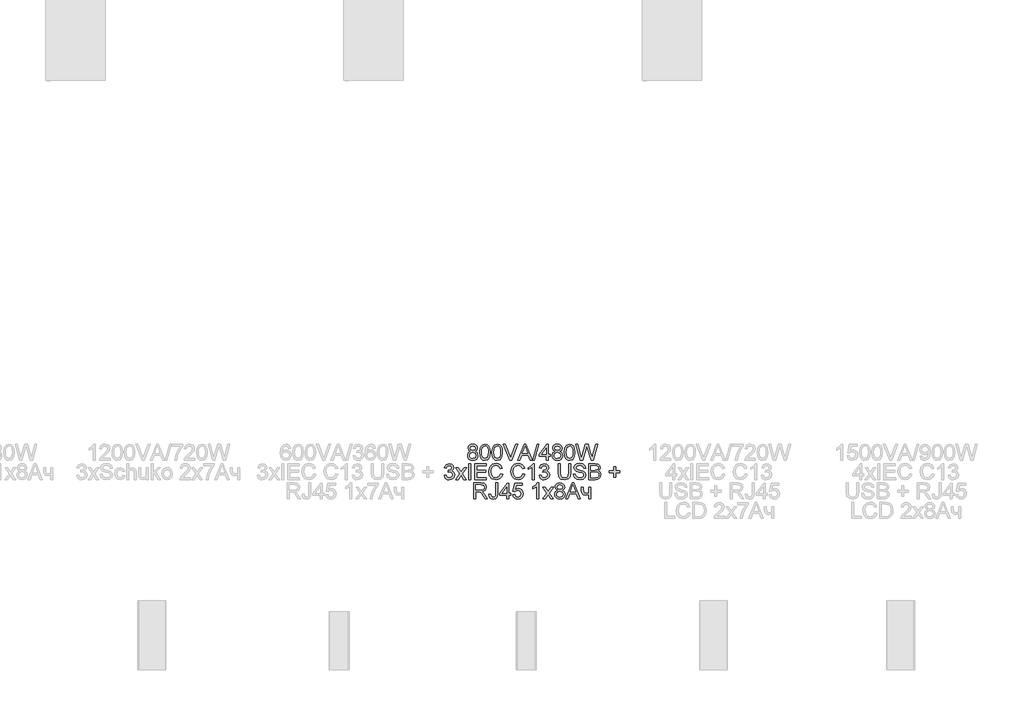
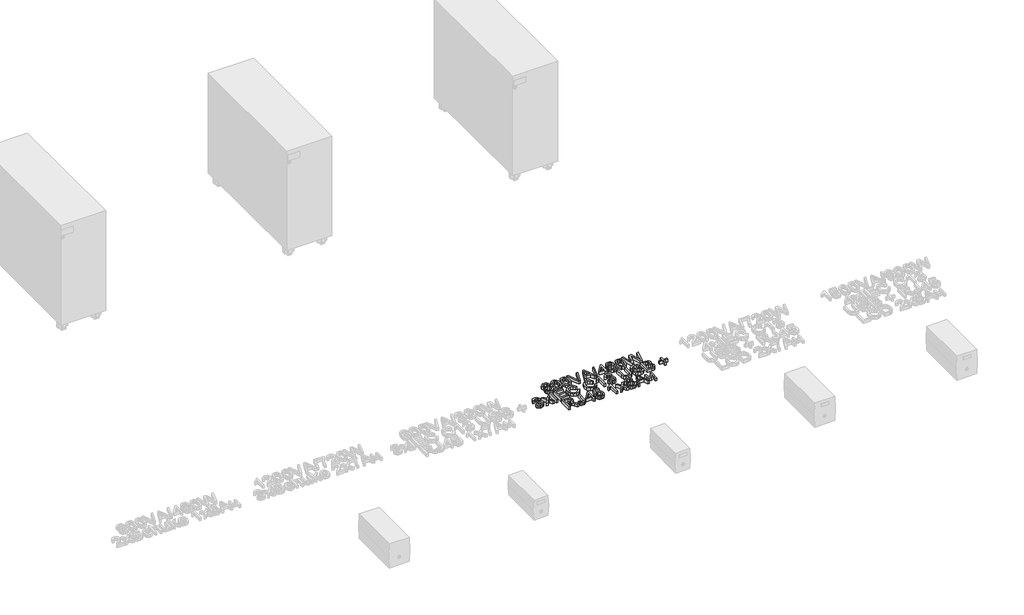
# One storey, part 40 of 74: 1 proxy.
"""IFC4 building model written with IfcOpenShell, lengths in millimetres."""

from ifc_helpers import new_model, si_unit, origin, origin_with_axes, place, context, project, spatial, polyline, outline, extrude, element, save

model = new_model("IFC4")

# Units and contexts
model_context = context("Model", 3, world=origin())
ifc_project = project(units=[si_unit("LENGTHUNIT", "METRE", prefix="MILLI")], contexts=[model_context])

# Site, building, storey
site = spatial("IfcSite", under=ifc_project)
building = spatial("IfcBuilding", under=site)
storey = spatial("IfcBuildingStorey", under=building, Name="Этаж 01", Elevation=0.0)

# Proxy
placement = place(None, origin())
element("IfcBuildingElementProxy", 1, Name="80 мм Arial", ObjectType="80 мм Arial", at=placement, inside=storey, context=model_context, shape_type="SweptSolid", body=[
    extrude(outline(polyline([(4839.4918629, -10982.3697643), (4830.3389588, -10976.1304857), (4827.3664723, -10966.418401), (4828.9851531, -10958.5653467), (4833.8411954, -10952.0759083), (4841.390134, -10947.7201854), (4851.0875034, -10946.2682778), (4860.8437339, -10947.7545211), (4868.4907743, -10952.2132509), (4873.4351083, -10958.8056962), (4875.0832196, -10966.6930862), (4872.1499739, -10976.1599162), (4863.2521347, -10982.3697643), (4873.9354278, -10990.2473441), (4877.5946274, -11003.2458413), (4875.7797429, -11012.8500139), (4870.3350894, -11020.7864548), (4861.9277595, -11026.1133861), (4851.224846, -11027.8890298), (4840.5219325, -11026.1060284), (4832.1146026, -11020.7570242), (4826.6699491, -11012.7445544), (4824.8550646, -11002.971156), (4828.6614169, -10989.6685431), (4839.4918629, -10982.3697643)]), holes=[polyline([(4837.4121033, -10966.7127066), (4840.973201, -10974.6000966), (4851.3425682, -10977.6608748), (4861.5059215, -10974.6197169), (4865.0375886, -10967.1639752), (4861.3881992, -10959.4433584), (4851.224846, -10956.3139089), (4841.0320622, -10959.3746871), (4837.4121033, -10966.7127066)]), polyline([(4834.9006956, -11002.6179893), (4836.5782375, -11010.1816431), (4842.5134003, -11015.8421208), (4851.3033275, -11017.8433988), (4863.271755, -11013.6348288), (4867.5489964, -11002.9319153), (4863.1344124, -10992.0229879), (4850.9697811, -10987.7065058), (4839.1485063, -10991.9641267), (4834.9006956, -11002.6179893)])]), origin_with_axes(), (0.0, 0.0, 1.0), 20.0),
    extrude(outline(polyline([(4886.3845545, -10987.0982742), (4889.3374207, -10963.9756645), (4898.1077274, -10950.643621), (4912.7543359, -10946.2682778), (4924.487319, -10948.8581671), (4932.5905331, -10956.323719), (4937.2994227, -10968.2136651), (4939.1241174, -10987.0982742), (4936.2006818, -11010.122782), (4927.4598056, -11023.4842561), (4912.7543359, -11027.8890298), (4902.3162975, -11025.9760435), (4894.3896667, -11020.2370843), (4888.3858326, -11006.6450709), (4886.3845545, -10987.0982742)]), holes=[polyline([(4896.4301855, -10987.0786538), (4897.6074079, -11002.8804118), (4901.1390751, -11012.0259582), (4912.7543359, -11017.8433988), (4924.3695968, -11012.0063378), (4927.901264, -11002.8558863), (4929.0784863, -10987.0786538), (4927.9405047, -10971.6325151), (4924.5265598, -10962.4158449), (4919.27811, -10957.8393929), (4912.6366137, -10956.3139089), (4901.2960381, -10961.6898911), (4897.6466487, -10971.4804572), (4896.4301855, -10987.0786538)])]), origin_with_axes(), (0.0, 0.0, 1.0), 20.0),
    extrude(outline(polyline([(4947.9140445, -10987.0982742), (4950.8669106, -10963.9756645), (4959.6372174, -10950.643621), (4974.2838259, -10946.2682778), (4986.016809, -10948.8581671), (4994.1200231, -10956.323719), (4998.8289126, -10968.2136651), (5000.6536073, -10987.0982742), (4997.7301717, -11010.122782), (4988.9892955, -11023.4842561), (4974.2838259, -11027.8890298), (4963.8457874, -11025.9760435), (4955.9191567, -11020.2370843), (4949.9153225, -11006.6450709), (4947.9140445, -10987.0982742)]), holes=[polyline([(4957.9596755, -10987.0786538), (4959.1368979, -11002.8804118), (4962.668565, -11012.0259582), (4974.2838259, -11017.8433988), (4985.8990868, -11012.0063378), (4989.4307539, -11002.8558863), (4990.6079763, -10987.0786538), (4989.4699947, -10971.6325151), (4986.0560498, -10962.4158449), (4980.8076, -10957.8393929), (4974.1661037, -10956.3139089), (4962.825528, -10961.6898911), (4959.1761386, -10971.4804572), (4957.9596755, -10987.0786538)])]), origin_with_axes(), (0.0, 0.0, 1.0), 20.0),
    extrude(outline(polyline([(5077.9382569, -11026.633326), (5110.0175668, -10946.2682778), (5118.5720495, -10946.2682778), (5150.6513595, -11026.633326), (5140.0367377, -11026.633326), (5130.8347827, -11001.5192484), (5097.7352133, -11001.5192484), (5088.5528787, -11026.633326), (5077.9382569, -11026.633326)]), holes=[polyline([(5101.4238434, -10991.4736174), (5127.1657729, -10991.4736174), (5119.9258553, -10971.7159017), (5114.2948082, -10956.3139089), (5109.291613, -10969.9893089), (5101.4238434, -10991.4736174)])]), origin_with_axes(), (0.0, 0.0, 1.0), 20.0),
    extrude(outline(polyline([(5036.9512975, -11026.633326), (5004.9700894, -10946.2682778), (5015.7220538, -10946.2682778), (5037.1278809, -11004.1679988), (5041.4639833, -11017.2155469), (5045.7412247, -11004.1679988), (5067.2059128, -10946.2682778), (5077.9578772, -10946.2682778), (5047.3304749, -11026.633326), (5036.9512975, -11026.633326)])), origin_with_axes(), (0.0, 0.0, 1.0), 20.0),
    extrude(outline(polyline([(5152.5937764, -11026.633326), (5175.1964462, -10946.2682778), (5184.2610586, -10946.2682778), (5161.6583888, -11026.633326), (5152.5937764, -11026.633326)])), origin_with_axes(), (0.0, 0.0, 1.0), 20.0),
    extrude(outline(polyline([(5221.6574897, -11026.633326), (5221.6574897, -11007.7977678), (5185.2420772, -11007.7977678), (5185.2420772, -10997.7521368), (5224.1688974, -10947.5239817), (5231.7031207, -10947.5239817), (5231.7031207, -10997.7521368), (5241.7487517, -10997.7521368), (5241.7487517, -11007.7977678), (5231.7031207, -11007.7977678), (5231.7031207, -11026.633326), (5221.6574897, -11026.633326)]), holes=[polyline([(5221.6574897, -10997.7521368), (5221.6574897, -10966.7127066), (5197.6029123, -10997.7521368), (5221.6574897, -10997.7521368)])]), origin_with_axes(), (0.0, 0.0, 1.0), 20.0),
    extrude(outline(polyline([(5265.1754771, -10982.3697643), (5256.0225731, -10976.1304857), (5253.0500866, -10966.418401), (5254.6687674, -10958.5653467), (5259.5248097, -10952.0759083), (5267.0737482, -10947.7201854), (5276.7711176, -10946.2682778), (5286.5273481, -10947.7545211), (5294.1743885, -10952.2132509), (5299.1187226, -10958.8056962), (5300.7668339, -10966.6930862), (5297.8335881, -10976.1599162), (5288.9357489, -10982.3697643), (5299.6190421, -10990.2473441), (5303.2782416, -11003.2458413), (5301.4633571, -11012.8500139), (5296.0187036, -11020.7864548), (5287.6113737, -11026.1133861), (5276.9084602, -11027.8890298), (5266.2055467, -11026.1060284), (5257.7982169, -11020.7570242), (5252.3535633, -11012.7445544), (5250.5386788, -11002.971156), (5254.3450312, -10989.6685431), (5265.1754771, -10982.3697643)]), holes=[polyline([(5263.0957176, -10966.7127066), (5266.6568153, -10974.6000966), (5277.0261825, -10977.6608748), (5287.1895357, -10974.6197169), (5290.7212029, -10967.1639752), (5287.0718135, -10959.4433584), (5276.9084602, -10956.3139089), (5266.7156764, -10959.3746871), (5263.0957176, -10966.7127066)]), polyline([(5260.5843098, -11002.6179893), (5262.2618517, -11010.1816431), (5268.1970146, -11015.8421208), (5276.9869417, -11017.8433988), (5288.9553693, -11013.6348288), (5293.2326106, -11002.9319153), (5288.8180267, -10992.0229879), (5276.6533954, -10987.7065058), (5264.8321206, -10991.9641267), (5260.5843098, -11002.6179893)])]), origin_with_axes(), (0.0, 0.0, 1.0), 20.0),
    extrude(outline(polyline([(5312.0681688, -10987.0982742), (5315.0210349, -10963.9756645), (5323.7913417, -10950.643621), (5338.4379502, -10946.2682778), (5350.1709333, -10948.8581671), (5358.2741474, -10956.323719), (5362.9830369, -10968.2136651), (5364.8077316, -10987.0982742), (5361.884296, -11010.122782), (5353.1434198, -11023.4842561), (5338.4379502, -11027.8890298), (5327.9999117, -11025.9760435), (5320.073281, -11020.2370843), (5314.0694468, -11006.6450709), (5312.0681688, -10987.0982742)]), holes=[polyline([(5322.1137998, -10987.0786538), (5323.2910222, -11002.8804118), (5326.8226893, -11012.0259582), (5338.4379502, -11017.8433988), (5350.0532111, -11012.0063378), (5353.5848782, -11002.8558863), (5354.7621006, -10987.0786538), (5353.624119, -10971.6325151), (5350.210174, -10962.4158449), (5344.9617242, -10957.8393929), (5338.320228, -10956.3139089), (5326.9796523, -10961.6898911), (5323.3302629, -10971.4804572), (5322.1137998, -10987.0786538)])]), origin_with_axes(), (0.0, 0.0, 1.0), 20.0),
    extrude(outline(polyline([(5391.7465038, -11026.633326), (5369.8305471, -10946.2682778), (5380.1901041, -10946.2682778), (5392.9041059, -10999.0863222), (5396.8281805, -11015.3908522), (5401.0269403, -11000.969878), (5416.9586833, -10946.2682778), (5431.8897872, -10946.2682778), (5443.4658073, -10985.9210518), (5452.0791511, -11015.3908522), (5455.8855034, -10999.5572111), (5468.7172274, -10946.2682778), (5479.0767844, -10946.2682778), (5457.1412073, -11026.633326), (5446.4088632, -11026.633326), (5427.1416569, -10964.632947), (5424.4536658, -10955.9803625), (5421.4321283, -10966.3987806), (5403.8718944, -11026.633326), (5391.7465038, -11026.633326)])), origin_with_axes(), (0.0, 0.0, 1.0), 20.0),
    extrude(outline(polyline([(4707.4467521, -11102.8662143), (4717.4923831, -11101.6105105), (4723.0351385, -11112.1858915), (4733.4045057, -11115.4232531), (4745.6083777, -11110.9694284), (4750.1406839, -11099.9427787), (4745.6476185, -11089.5537912), (4734.2285613, -11085.443323), (4727.1848474, -11086.5420639), (4728.3032087, -11076.4964329), (4729.9120792, -11076.6141552), (4741.311516, -11073.7299603), (4746.3735723, -11064.8615517), (4742.7045625, -11057.0035923), (4733.2475427, -11053.8937631), (4723.6728006, -11057.0330228), (4718.748087, -11066.4508019), (4708.7024559, -11065.195098), (4716.9233923, -11049.4399384), (4732.894376, -11043.8481321), (4745.0099563, -11046.6047945), (4753.4859575, -11054.1390178), (4756.4192033, -11064.2729405), (4753.6331103, -11073.5337566), (4745.3925536, -11080.1850631), (4756.3407218, -11087.0521936), (4760.1863149, -11100.1193621), (4758.2635183, -11109.9099283), (4752.4951287, -11118.0916238), (4743.7885881, -11123.624569), (4733.0513389, -11125.4688841), (4723.3392543, -11123.8943492), (4715.4322439, -11119.1707444), (4709.9336344, -11111.945542), (4707.4467521, -11102.8662143)])), origin_with_axes(), (0.0, 0.0, 1.0), 20.0),
    extrude(outline(polyline([(4765.2091304, -11124.2131802), (4786.6738186, -11094.5471761), (4766.4648343, -11065.195098), (4778.5509841, -11065.195098), (4788.3023095, -11079.3217666), (4792.8542361, -11085.9926935), (4796.7979311, -11080.5382298), (4807.9030622, -11065.195098), (4819.989212, -11065.195098), (4798.7599684, -11094.5471761), (4819.2043971, -11124.2131802), (4807.1182473, -11124.2131802), (4794.8162734, -11106.3782611), (4792.5599305, -11103.1212792), (4777.2952802, -11124.2131802), (4765.2091304, -11124.2131802)])), origin_with_axes(), (0.0, 0.0, 1.0), 20.0),
    extrude(outline(polyline([(4830.505732, -11124.2131802), (4830.505732, -11043.8481321), (4840.551363, -11043.8481321), (4840.551363, -11124.2131802), (4830.505732, -11124.2131802)])), origin_with_axes(), (0.0, 0.0, 1.0), 20.0),
    extrude(outline(polyline([(4860.6426251, -11124.2131802), (4860.6426251, -11043.8481321), (4918.4050034, -11043.8481321), (4918.4050034, -11053.8937631), (4870.6882561, -11053.8937631), (4870.6882561, -11077.7521368), (4915.8935956, -11077.7521368), (4915.8935956, -11087.7977678), (4870.6882561, -11087.7977678), (4870.6882561, -11114.1675492), (4919.6607073, -11114.1675492), (4919.6607073, -11124.2131802), (4860.6426251, -11124.2131802)])), origin_with_axes(), (0.0, 0.0, 1.0), 20.0),
    extrude(outline(polyline([(4991.2358282, -11095.645917), (5001.2814593, -11098.2358063), (4996.6461461, -11109.9418114), (4989.3718928, -11118.4938415), (4979.8167711, -11123.7251235), (4968.3388529, -11125.4688841), (4947.4333454, -11120.1910038), (4935.1706122, -11104.9067331), (4930.9620422, -11083.4224246), (4935.7199826, -11061.5849494), (4949.2482299, -11047.4288502), (4968.554677, -11042.5924282), (4979.5690639, -11044.157153), (4988.6753696, -11048.8513273), (4995.5890985, -11056.3855505), (5000.0257554, -11066.4704223), (4989.9801244, -11068.8641078), (4981.7395677, -11056.5130829), (4968.1622695, -11052.6380593), (4952.4463507, -11056.934921), (4943.5681319, -11068.4717003), (4941.0076732, -11083.4028042), (4944.0390208, -11100.7079733), (4953.4764203, -11111.7640535), (4967.3382138, -11115.4232531), (4982.7107761, -11110.4396783), (4991.2358282, -11095.645917)])), origin_with_axes(), (0.0, 0.0, 1.0), 20.0),
    extrude(outline(polyline([(5102.9934733, -11095.645917), (5113.0391043, -11098.2358063), (5108.4037912, -11109.9418114), (5101.1295378, -11118.4938415), (5091.5744162, -11123.7251235), (5080.0964979, -11125.4688841), (5059.1909904, -11120.1910038), (5046.9282572, -11104.9067331), (5042.7196872, -11083.4224246), (5047.4776277, -11061.5849494), (5061.0058749, -11047.4288502), (5080.312322, -11042.5924282), (5091.3267089, -11044.157153), (5100.4330146, -11048.8513273), (5107.3467436, -11056.3855505), (5111.7834004, -11066.4704223), (5101.7377694, -11068.8641078), (5093.4972127, -11056.5130829), (5079.9199145, -11052.6380593), (5064.2039957, -11056.934921), (5055.3257769, -11068.4717003), (5052.7653182, -11083.4028042), (5055.7966659, -11100.7079733), (5065.2340653, -11111.7640535), (5079.0958589, -11115.4232531), (5094.4684212, -11110.4396783), (5102.9934733, -11095.645917)])), origin_with_axes(), (0.0, 0.0, 1.0), 20.0),
    extrude(outline(polyline([(5160.7558516, -11124.2131802), (5150.7102206, -11124.2131802), (5150.7102206, -11061.5849494), (5141.1943397, -11068.3637883), (5130.6189586, -11073.4356547), (5130.6189586, -11063.9393941), (5145.3440486, -11054.5412354), (5154.2811285, -11043.8481321), (5160.7558516, -11043.8481321), (5160.7558516, -11124.2131802)])), origin_with_axes(), (0.0, 0.0, 1.0), 20.0),
    extrude(outline(polyline([(5184.6142253, -11102.8662143), (5194.6598563, -11101.6105105), (5200.2026117, -11112.1858915), (5210.5719789, -11115.4232531), (5222.7758509, -11110.9694284), (5227.3081571, -11099.9427787), (5222.8150917, -11089.5537912), (5211.3960345, -11085.443323), (5204.3523206, -11086.5420639), (5205.4706819, -11076.4964329), (5207.0795525, -11076.6141552), (5218.4789892, -11073.7299603), (5223.5410455, -11064.8615517), (5219.8720357, -11057.0035923), (5210.4150159, -11053.8937631), (5200.8402738, -11057.0330228), (5195.9155602, -11066.4508019), (5185.8699292, -11065.195098), (5194.0908655, -11049.4399384), (5210.0618492, -11043.8481321), (5222.1774295, -11046.6047945), (5230.6534307, -11054.1390178), (5233.5866765, -11064.2729405), (5230.8005835, -11073.5337566), (5222.5600268, -11080.1850631), (5233.508195, -11087.0521936), (5237.3537881, -11100.1193621), (5235.4309916, -11109.9099283), (5229.6626019, -11118.0916238), (5220.9560613, -11123.624569), (5210.2188121, -11125.4688841), (5200.5067275, -11123.8943492), (5192.5997171, -11119.1707444), (5187.1011076, -11111.945542), (5184.6142253, -11102.8662143)])), origin_with_axes(), (0.0, 0.0, 1.0), 20.0),
    extrude(outline(polyline([(5334.0429866, -11043.8481321), (5344.0886176, -11043.8481321), (5344.0886176, -11090.2110737), (5341.3613858, -11109.4292291), (5331.5315789, -11121.0052492), (5312.8922245, -11125.4688841), (5294.5373654, -11121.5840502), (5284.3543918, -11110.3317663), (5281.3034238, -11090.2110737), (5281.3034238, -11043.8481321), (5291.3490548, -11043.8481321), (5291.3490548, -11089.857907), (5293.3307125, -11105.1716082), (5300.138982, -11112.7548824), (5311.9504465, -11115.4232531), (5322.1677558, -11114.103783), (5328.96131, -11110.1453727), (5332.7725675, -11102.4345661), (5334.0429866, -11089.857907), (5334.0429866, -11043.8481321)])), origin_with_axes(), (0.0, 0.0, 1.0), 20.0),
    extrude(outline(polyline([(5357.9013603, -11096.5876949), (5367.9469913, -11096.5876949), (5371.1843529, -11106.6431361), (5379.0913632, -11113.000137), (5391.1382723, -11115.4232531), (5401.6351719, -11113.5887482), (5408.4140108, -11108.5463123), (5410.6409231, -11101.8067142), (5408.9731914, -11095.538005), (5402.1453016, -11090.9762682), (5387.5183134, -11087.1404853), (5371.7729641, -11082.1863411), (5363.2282916, -11074.710979), (5360.412768, -11064.7242091), (5363.8953843, -11053.3542029), (5374.0685477, -11045.3294703), (5388.9604109, -11042.5924282), (5404.8529131, -11045.4570027), (5415.4479145, -11053.8741428), (5419.4308503, -11066.4508019), (5409.3852192, -11066.4508019), (5403.6953111, -11056.1304857), (5389.3528183, -11052.6380593), (5374.9710849, -11056.0912449), (5370.4583991, -11064.4299035), (5373.6565199, -11071.3951359), (5390.0591518, -11077.0065626), (5407.8352098, -11082.0489985), (5417.5571046, -11090.1914533), (5420.6865541, -11101.5516493), (5417.0862157, -11113.5691278), (5406.7266587, -11122.3394346), (5391.5306797, -11125.4688841), (5373.5878486, -11122.0941799), (5362.2374627, -11111.9308267), (5357.9013603, -11096.5876949)])), origin_with_axes(), (0.0, 0.0, 1.0), 20.0),
    extrude(outline(polyline([(5435.7550007, -11124.2131802), (5435.7550007, -11043.8481321), (5466.4216438, -11043.8481321), (5481.4410394, -11046.2123871), (5490.309448, -11053.4817353), (5493.517379, -11063.7628108), (5490.8195777, -11073.1511593), (5482.6673127, -11080.2635445), (5492.5657909, -11087.7585271), (5496.0287867, -11100.2567047), (5493.6645318, -11111.0577201), (5487.8078504, -11118.7489063), (5479.0669742, -11122.8299439), (5466.1861993, -11124.2131802), (5435.7550007, -11124.2131802)]), holes=[polyline([(5445.8006317, -11076.4964329), (5464.1456805, -11076.4964329), (5474.8584042, -11075.6331365), (5481.3036968, -11071.9150758), (5483.471748, -11065.3716814), (5481.4508496, -11058.8184768), (5475.6628395, -11054.9434531), (5462.752634, -11053.8937631), (5445.8006317, -11053.8937631), (5445.8006317, -11076.4964329)]), polyline([(5445.8006317, -11114.1675492), (5466.4020234, -11114.1675492), (5473.8577652, -11113.7751418), (5480.1657151, -11111.5874702), (5484.3448546, -11107.1238353), (5485.9831557, -11100.3548066), (5484.0603592, -11092.5458981), (5477.8308907, -11087.8860595), (5465.4210047, -11086.5420639), (5445.8006317, -11086.5420639), (5445.8006317, -11114.1675492)])]), origin_with_axes(), (0.0, 0.0, 1.0), 20.0),
    extrude(outline(polyline([(5560.0696845, -11111.6561415), (5560.0696845, -11090.3091756), (5538.7227186, -11090.3091756), (5538.7227186, -11080.2635445), (5560.0696845, -11080.2635445), (5560.0696845, -11058.9165786), (5570.1153155, -11058.9165786), (5570.1153155, -11080.2635445), (5591.4622814, -11080.2635445), (5591.4622814, -11090.3091756), (5570.1153155, -11090.3091756), (5570.1153155, -11111.6561415), (5560.0696845, -11111.6561415)])), origin_with_axes(), (0.0, 0.0, 1.0), 20.0),
    extrude(outline(polyline([(4857.5033654, -11221.7930345), (4857.5033654, -11141.4279864), (4892.1333238, -11141.4279864), (4908.2122196, -11143.5960376), (4917.0021467, -11151.2676035), (4920.2885592, -11163.4224246), (4914.8439057, -11177.9022599), (4898.0194358, -11185.3776221), (4903.7289643, -11189.6744838), (4911.8714192, -11200.0144204), (4925.272134, -11221.7930345), (4913.598012, -11221.7930345), (4903.1403531, -11205.1353378), (4895.5865095, -11194.1086881), (4890.2791986, -11188.8994791), (4885.5016377, -11186.9864927), (4879.6743869, -11186.633326), (4867.5489964, -11186.633326), (4867.5489964, -11221.7930345), (4857.5033654, -11221.7930345)]), holes=[polyline([(4867.5489964, -11176.5876949), (4890.0339439, -11176.5876949), (4901.502052, -11175.1652179), (4908.0160158, -11170.6132913), (4910.2429282, -11163.7952117), (4905.9951174, -11154.9464234), (4892.564972, -11151.4736174), (4867.5489964, -11151.4736174), (4867.5489964, -11176.5876949)])]), origin_with_axes(), (0.0, 0.0, 1.0), 20.0),
    extrude(outline(polyline([(4932.845598, -11199.2296055), (4942.891229, -11197.9346609), (4946.3247943, -11209.8049866), (4954.8007954, -11213.0031074), (4961.6777362, -11211.1882229), (4965.6606719, -11206.2438889), (4966.7496026, -11196.2865495), (4966.7496026, -11141.4279864), (4976.7952337, -11141.4279864), (4976.7952337, -11196.1099662), (4974.3721176, -11211.7179729), (4966.6809313, -11220.1449232), (4954.3299065, -11223.0487384), (4945.0445649, -11221.5502324), (4938.2215802, -11217.0547144), (4934.0816815, -11209.6014252), (4932.845598, -11199.2296055)])), origin_with_axes(), (0.0, 0.0, 1.0), 20.0),
    extrude(outline(polyline([(5023.2562771, -11221.7930345), (5023.2562771, -11202.9574764), (4986.8408647, -11202.9574764), (4986.8408647, -11192.9118453), (5025.7676849, -11142.6836903), (5033.3019081, -11142.6836903), (5033.3019081, -11192.9118453), (5043.3475391, -11192.9118453), (5043.3475391, -11202.9574764), (5033.3019081, -11202.9574764), (5033.3019081, -11221.7930345), (5023.2562771, -11221.7930345)]), holes=[polyline([(5023.2562771, -11192.9118453), (5023.2562771, -11161.8724151), (4999.2016997, -11192.9118453), (5023.2562771, -11192.9118453)])]), origin_with_axes(), (0.0, 0.0, 1.0), 20.0),
    extrude(outline(polyline([(5052.1374663, -11200.4460686), (5062.1830973, -11199.1903647), (5067.2451535, -11209.5401115), (5077.7420531, -11213.0031074), (5090.3383327, -11208.1863058), (5094.8313981, -11195.4036327), (5090.6228281, -11183.4744459), (5077.8990161, -11179.0991027), (5069.0796584, -11180.8453159), (5063.4388012, -11185.3776221), (5053.3931702, -11184.1219182), (5062.1830973, -11142.6836903), (5101.1099175, -11142.6836903), (5101.1099175, -11152.7293213), (5070.3059317, -11152.7293213), (5066.00907, -11174.8611021), (5080.7047295, -11169.0534717), (5090.0906254, -11170.8536409), (5097.8823661, -11176.2541486), (5103.1283634, -11184.4848951), (5104.8770291, -11194.7757808), (5103.3024942, -11204.8214118), (5098.5788893, -11213.4151352), (5089.5338974, -11220.6403376), (5077.7028124, -11223.0487384), (5067.8362173, -11221.5011815), (5059.9758053, -11216.8585107), (5054.5875604, -11209.6602863), (5052.1374663, -11200.4460686)])), origin_with_axes(), (0.0, 0.0, 1.0), 20.0),
    extrude(outline(polyline([(5182.7306695, -11221.7930345), (5172.6850385, -11221.7930345), (5172.6850385, -11159.1648037), (5163.1691575, -11165.9436426), (5152.5937764, -11171.015509), (5152.5937764, -11161.5192484), (5167.3188664, -11152.1210897), (5176.2559464, -11141.4279864), (5182.7306695, -11141.4279864), (5182.7306695, -11221.7930345)])), origin_with_axes(), (0.0, 0.0, 1.0), 20.0),
    extrude(outline(polyline([(5202.8219315, -11221.7930345), (5224.2866196, -11192.1270304), (5204.0776354, -11162.7749523), (5216.1637852, -11162.7749523), (5225.9151106, -11176.9016209), (5230.4670372, -11183.5725478), (5234.4107322, -11178.118084), (5245.5158633, -11162.7749523), (5257.6020131, -11162.7749523), (5236.3727695, -11192.1270304), (5256.8171982, -11221.7930345), (5244.7310484, -11221.7930345), (5232.4290745, -11203.9581154), (5230.1727316, -11200.7011335), (5214.9080813, -11221.7930345), (5202.8219315, -11221.7930345)])), origin_with_axes(), (0.0, 0.0, 1.0), 20.0),
    extrude(outline(polyline([(5277.7325159, -11177.5294729), (5268.5796119, -11171.2901942), (5265.6071253, -11161.5781095), (5267.2258061, -11153.7250552), (5272.0818485, -11147.2356168), (5279.630787, -11142.879894), (5289.3281564, -11141.4279864), (5299.0843869, -11142.9142297), (5306.7314273, -11147.3729594), (5311.6757613, -11153.9654048), (5313.3238727, -11161.8527948), (5310.3906269, -11171.3196248), (5301.4927877, -11177.5294729), (5312.1760808, -11185.4070526), (5315.8352804, -11198.4055498), (5314.0203959, -11208.0097224), (5308.5757424, -11215.9461633), (5300.1684125, -11221.2730946), (5289.465499, -11223.0487384), (5278.7625855, -11221.265737), (5270.3552556, -11215.9167328), (5264.9106021, -11207.9042629), (5263.0957176, -11198.1308646), (5266.90207, -11184.8282516), (5277.7325159, -11177.5294729)]), holes=[polyline([(5275.6527564, -11161.8724151), (5279.2138541, -11169.7598051), (5289.5832212, -11172.8205833), (5299.7465745, -11169.7794255), (5303.2782416, -11162.3236837), (5299.6288523, -11154.6030669), (5289.465499, -11151.4736174), (5279.2727152, -11154.5343956), (5275.6527564, -11161.8724151)]), polyline([(5273.1413486, -11197.7776979), (5274.8188905, -11205.3413517), (5280.7540534, -11211.0018293), (5289.5439805, -11213.0031074), (5301.5124081, -11208.7945373), (5305.7896494, -11198.0916238), (5301.3750655, -11187.1826964), (5289.2104342, -11182.8662143), (5277.3891594, -11187.1238353), (5273.1413486, -11197.7776979)])]), origin_with_axes(), (0.0, 0.0, 1.0), 20.0),
    extrude(outline(polyline([(5319.0334012, -11221.7930345), (5351.1127112, -11141.4279864), (5359.6671939, -11141.4279864), (5391.7465038, -11221.7930345), (5381.131882, -11221.7930345), (5371.929927, -11196.678957), (5338.8303577, -11196.678957), (5329.6480231, -11221.7930345), (5319.0334012, -11221.7930345)]), holes=[polyline([(5342.5189878, -11186.633326), (5368.2609173, -11186.633326), (5361.0209996, -11166.8756103), (5355.3899525, -11151.4736174), (5350.3867574, -11165.1490174), (5342.5189878, -11186.633326)])]), origin_with_axes(), (0.0, 0.0, 1.0), 20.0),
    extrude(outline(polyline([(5397.4560324, -11162.7749523), (5407.5016634, -11162.7749523), (5407.5016634, -11174.0959076), (5408.3159089, -11184.7105294), (5412.2301733, -11190.4592987), (5419.9998411, -11192.9118453), (5433.8714448, -11189.8706875), (5433.8714448, -11162.7749523), (5443.9170759, -11162.7749523), (5443.9170759, -11221.7930345), (5433.8714448, -11221.7930345), (5433.8714448, -11199.5042907), (5417.31185, -11202.9574764), (5405.9222234, -11199.3571379), (5399.221866, -11190.5377802), (5397.4560324, -11179.059862), (5397.4560324, -11162.7749523)])), origin_with_axes(), (0.0, 0.0, 1.0), 20.0),
])

save(model, "model.ifc")
